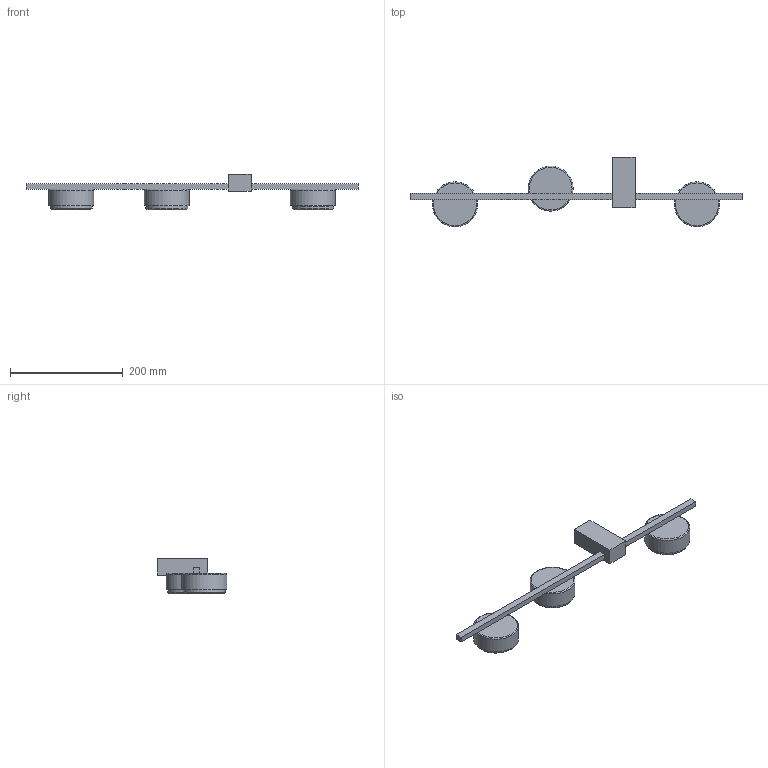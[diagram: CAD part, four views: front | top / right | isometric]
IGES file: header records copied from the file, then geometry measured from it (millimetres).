
Start section: SolidWorks IGES file using analytic representation for surfaces
Global section: file name: X:\PRODUKT\Modele 3D_WWW\_KOLEKCJE WWW\PILLS\8263\PILLS-III-8263.IGS; native system: SolidWorks 2021; preprocessor: SolidWorks 2021; author: gabriela.tworek; date: 221212.102746; units: millimetre
Bounding box: 590 x 123.95 x 63.09 mm (x, y, z)
Surface area: 123082.9 mm2 (no closed solid volume)
Topology: 0 solids, 0 shells, 36 faces, 96 edges, 84 vertices
Faces by surface type: bspline 24, revolution 12
